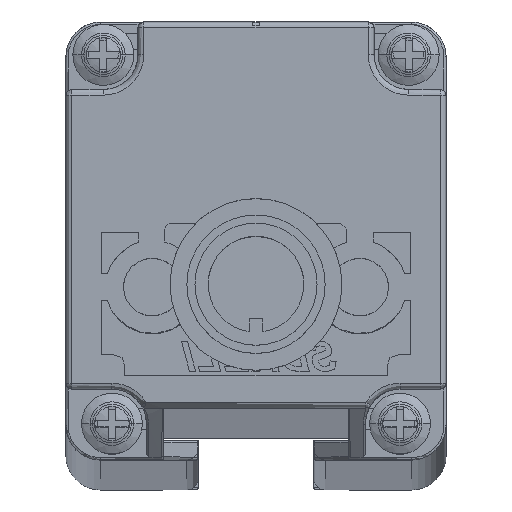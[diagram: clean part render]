
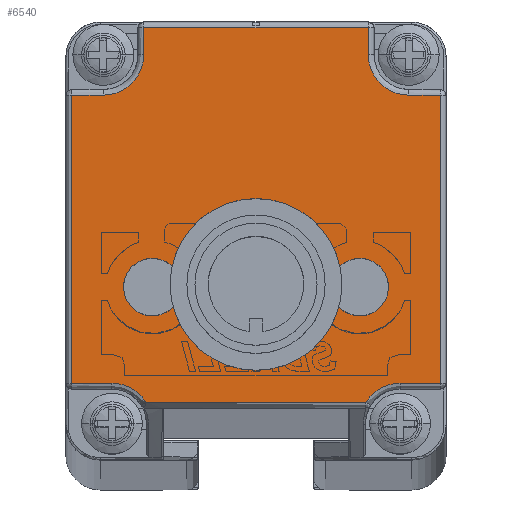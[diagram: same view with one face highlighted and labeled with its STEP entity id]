
A CAD part, top view. The second image highlights one B-rep face of the part: STEP entity #6540.
In plain terms, the highlighted planar face has unit normal (0, 0, 1).
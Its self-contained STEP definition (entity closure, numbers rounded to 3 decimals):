
#2629=CARTESIAN_POINT('',(0.65,-8.054,
1365.276));
#2630=DIRECTION('',(0.,0.,1.));
#2631=DIRECTION('',(1.,0.,0.));
#2632=AXIS2_PLACEMENT_3D('',#2629,#2630,#2631);
#2634=CARTESIAN_POINT('',(0.65,-8.054,
1365.276));
#2635=DIRECTION('',(0.,0.,1.));
#2636=DIRECTION('',(-1.,0.,0.));
#2637=AXIS2_PLACEMENT_3D('',#2634,#2635,#2636);
#2639=CARTESIAN_POINT('',(9.65,-8.055,1365.276));
#2640=DIRECTION('',(0.,0.,1.));
#2641=DIRECTION('',(1.,-0.007,0.));
#2642=AXIS2_PLACEMENT_3D('',#2639,#2640,#2641);
#2644=CARTESIAN_POINT('',(9.65,-8.055,1365.276));
#2645=DIRECTION('',(0.,0.,1.));
#2646=DIRECTION('',(-1.,0.007,0.));
#2647=AXIS2_PLACEMENT_3D('',#2644,#2645,#2646);
#2649=CARTESIAN_POINT('',(-8.35,-8.054,
1365.276));
#2650=DIRECTION('',(0.,0.,1.));
#2651=DIRECTION('',(1.,0.007,0.));
#2652=AXIS2_PLACEMENT_3D('',#2649,#2650,#2651);
#2654=CARTESIAN_POINT('',(-8.35,-8.054,
1365.276));
#2655=DIRECTION('',(0.,0.,1.));
#2656=DIRECTION('',(-1.,-0.007,0.));
#2657=AXIS2_PLACEMENT_3D('',#2654,#2655,#2656);
#2659=CARTESIAN_POINT('',(-11.85,-19.904,
1365.276));
#2660=DIRECTION('',(0.,0.,1.));
#2661=DIRECTION('',(0.849,0.528,0.));
#2662=AXIS2_PLACEMENT_3D('',#2659,#2660,#2661);
#2664=CARTESIAN_POINT('',(-12.6,12.094,1365.276));
#2665=DIRECTION('',(0.,0.,1.));
#2666=DIRECTION('',(0.,-1.,0.));
#2667=AXIS2_PLACEMENT_3D('',#2664,#2665,#2666);
#2669=CARTESIAN_POINT('',(13.9,12.094,1365.276));
#2670=DIRECTION('',(0.,0.,1.));
#2671=DIRECTION('',(-1.,0.,0.));
#2672=AXIS2_PLACEMENT_3D('',#2669,#2670,#2671);
#2674=CARTESIAN_POINT('',(13.15,-19.904,1365.276));
#2675=DIRECTION('',(0.,0.,1.));
#2676=DIRECTION('',(0.,1.,0.));
#2677=AXIS2_PLACEMENT_3D('',#2674,#2675,#2676);
#4220=DIRECTION('',(1.,0.,0.));
#4221=VECTOR('',#4220,19.056);
#4222=CARTESIAN_POINT('',(-8.878,-18.056,
1365.276));
#4223=LINE('',#4222,#4221);
#4793=DIRECTION('',(0.,1.,0.));
#4794=VECTOR('',#4793,2.35);
#4795=CARTESIAN_POINT('',(10.4,12.094,1365.276));
#4796=LINE('',#4795,#4794);
#4816=DIRECTION('',(-1.,0.,0.));
#4817=VECTOR('',#4816,19.5);
#4818=CARTESIAN_POINT('',(10.4,14.444,1365.276));
#4819=LINE('',#4818,#4817);
#4840=DIRECTION('',(0.,-1.,0.));
#4841=VECTOR('',#4840,2.35);
#4842=CARTESIAN_POINT('',(-9.1,14.444,1365.276));
#4843=LINE('',#4842,#4841);
#4867=DIRECTION('',(-1.,0.,0.));
#4868=VECTOR('',#4867,2.75);
#4869=CARTESIAN_POINT('',(-12.6,8.594,1365.276));
#4870=LINE('',#4869,#4868);
#4898=DIRECTION('',(0.,-1.,0.));
#4899=VECTOR('',#4898,24.998);
#4900=CARTESIAN_POINT('',(-15.35,8.594,1365.276));
#4901=LINE('',#4900,#4899);
#4922=DIRECTION('',(1.,0.,0.));
#4923=VECTOR('',#4922,3.5);
#4924=CARTESIAN_POINT('',(-15.35,-16.404,
1365.276));
#4925=LINE('',#4924,#4923);
#4986=DIRECTION('',(-1.,0.,0.));
#4987=VECTOR('',#4986,2.75);
#4988=CARTESIAN_POINT('',(16.65,8.594,1365.276));
#4989=LINE('',#4988,#4987);
#5226=DIRECTION('',(1.,0.,0.));
#5227=VECTOR('',#5226,3.5);
#5228=CARTESIAN_POINT('',(13.15,-16.404,1365.276));
#5229=LINE('',#5228,#5227);
#5257=DIRECTION('',(0.,1.,0.));
#5258=VECTOR('',#5257,24.998);
#5259=CARTESIAN_POINT('',(16.65,-16.404,1365.276));
#5260=LINE('',#5259,#5258);
#5664=CARTESIAN_POINT('',(12.15,-8.072,1365.276));
#5665=VERTEX_POINT('',#5664);
#5666=CARTESIAN_POINT('',(7.15,-8.039,1365.276));
#5667=VERTEX_POINT('',#5666);
#5668=CARTESIAN_POINT('',(-8.878,-18.056,
1365.276));
#5669=CARTESIAN_POINT('',(-11.85,-16.404,
1365.276));
#5670=VERTEX_POINT('',#5668);
#5671=VERTEX_POINT('',#5669);
#5672=CARTESIAN_POINT('',(-15.35,-16.404,
1365.276));
#5673=VERTEX_POINT('',#5672);
#5674=CARTESIAN_POINT('',(-15.35,8.594,1365.276));
#5675=VERTEX_POINT('',#5674);
#5676=CARTESIAN_POINT('',(-12.6,8.594,1365.276));
#5677=VERTEX_POINT('',#5676);
#5678=CARTESIAN_POINT('',(-9.1,12.094,1365.276));
#5679=VERTEX_POINT('',#5678);
#5680=CARTESIAN_POINT('',(-9.1,14.444,1365.276));
#5681=VERTEX_POINT('',#5680);
#5682=CARTESIAN_POINT('',(10.4,14.444,1365.276));
#5683=VERTEX_POINT('',#5682);
#5684=CARTESIAN_POINT('',(10.4,12.094,1365.276));
#5685=VERTEX_POINT('',#5684);
#5686=CARTESIAN_POINT('',(13.9,8.594,1365.276));
#5687=VERTEX_POINT('',#5686);
#5688=CARTESIAN_POINT('',(16.65,8.594,1365.276));
#5689=VERTEX_POINT('',#5688);
#5690=CARTESIAN_POINT('',(16.65,-16.404,1365.276));
#5691=VERTEX_POINT('',#5690);
#5692=CARTESIAN_POINT('',(13.15,-16.404,1365.276));
#5693=VERTEX_POINT('',#5692);
#5694=CARTESIAN_POINT('',(10.178,-18.056,1365.276));
#5695=VERTEX_POINT('',#5694);
#5696=CARTESIAN_POINT('',(-5.85,-8.037,
1365.276));
#5697=CARTESIAN_POINT('',(-10.85,-8.07,
1365.276));
#5698=VERTEX_POINT('',#5696);
#5699=VERTEX_POINT('',#5697);
#5700=CARTESIAN_POINT('',(3.65,-8.054,1365.276));
#5701=CARTESIAN_POINT('',(-2.35,-8.054,
1365.276));
#5702=VERTEX_POINT('',#5700);
#5703=VERTEX_POINT('',#5701);
#6489=CARTESIAN_POINT('',(0.65,0.944,
1365.276));
#6490=DIRECTION('',(0.,0.,1.));
#6491=DIRECTION('',(1.,0.,0.));
#6492=AXIS2_PLACEMENT_3D('',#6489,#6490,#6491);
#6493=PLANE('',#6492);
#6495=ORIENTED_EDGE('',*,*,#6494,.T.);
#6497=ORIENTED_EDGE('',*,*,#6496,.F.);
#6499=ORIENTED_EDGE('',*,*,#6498,.F.);
#6501=ORIENTED_EDGE('',*,*,#6500,.F.);
#6503=ORIENTED_EDGE('',*,*,#6502,.T.);
#6505=ORIENTED_EDGE('',*,*,#6504,.F.);
#6507=ORIENTED_EDGE('',*,*,#6506,.F.);
#6509=ORIENTED_EDGE('',*,*,#6508,.F.);
#6511=ORIENTED_EDGE('',*,*,#6510,.T.);
#6513=ORIENTED_EDGE('',*,*,#6512,.F.);
#6515=ORIENTED_EDGE('',*,*,#6514,.F.);
#6517=ORIENTED_EDGE('',*,*,#6516,.F.);
#6519=ORIENTED_EDGE('',*,*,#6518,.T.);
#6521=ORIENTED_EDGE('',*,*,#6520,.F.);
#6522=EDGE_LOOP('',(#6495,#6497,#6499,#6501,#6503,#6505,#6507,#6509,#6511,#6513,
#6515,#6517,#6519,#6521));
#6523=FACE_OUTER_BOUND('',#6522,.F.);
#6524=ORIENTED_EDGE('',*,*,#6476,.T.);
#6525=ORIENTED_EDGE('',*,*,#6437,.T.);
#6526=EDGE_LOOP('',(#6524,#6525));
#6527=FACE_BOUND('',#6526,.F.);
#6529=ORIENTED_EDGE('',*,*,#6528,.T.);
#6531=ORIENTED_EDGE('',*,*,#6530,.T.);
#6532=EDGE_LOOP('',(#6529,#6531));
#6533=FACE_BOUND('',#6532,.F.);
#6535=ORIENTED_EDGE('',*,*,#6534,.T.);
#6537=ORIENTED_EDGE('',*,*,#6536,.T.);
#6538=EDGE_LOOP('',(#6535,#6537));
#6539=FACE_BOUND('',#6538,.F.);
#2633=CIRCLE('',#2632,3.);
#2638=CIRCLE('',#2637,3.);
#2643=CIRCLE('',#2642,2.5);
#2648=CIRCLE('',#2647,2.5);
#2653=CIRCLE('',#2652,2.5);
#2658=CIRCLE('',#2657,2.5);
#2663=CIRCLE('',#2662,3.5);
#2668=CIRCLE('',#2667,3.5);
#2673=CIRCLE('',#2672,3.5);
#2678=CIRCLE('',#2677,3.5);
#6437=EDGE_CURVE('',#5667,#5665,#2648,.T.);
#6476=EDGE_CURVE('',#5665,#5667,#2643,.T.);
#6494=EDGE_CURVE('',#5670,#5671,#2663,.T.);
#6496=EDGE_CURVE('',#5673,#5671,#4925,.T.);
#6498=EDGE_CURVE('',#5675,#5673,#4901,.T.);
#6500=EDGE_CURVE('',#5677,#5675,#4870,.T.);
#6502=EDGE_CURVE('',#5677,#5679,#2668,.T.);
#6504=EDGE_CURVE('',#5681,#5679,#4843,.T.);
#6506=EDGE_CURVE('',#5683,#5681,#4819,.T.);
#6508=EDGE_CURVE('',#5685,#5683,#4796,.T.);
#6510=EDGE_CURVE('',#5685,#5687,#2673,.T.);
#6512=EDGE_CURVE('',#5689,#5687,#4989,.T.);
#6514=EDGE_CURVE('',#5691,#5689,#5260,.T.);
#6516=EDGE_CURVE('',#5693,#5691,#5229,.T.);
#6518=EDGE_CURVE('',#5693,#5695,#2678,.T.);
#6520=EDGE_CURVE('',#5670,#5695,#4223,.T.);
#6528=EDGE_CURVE('',#5698,#5699,#2653,.T.);
#6530=EDGE_CURVE('',#5699,#5698,#2658,.T.);
#6534=EDGE_CURVE('',#5702,#5703,#2633,.T.);
#6536=EDGE_CURVE('',#5703,#5702,#2638,.T.);
#6540=ADVANCED_FACE('',(#6523,#6527,#6533,#6539),#6493,.T.);
